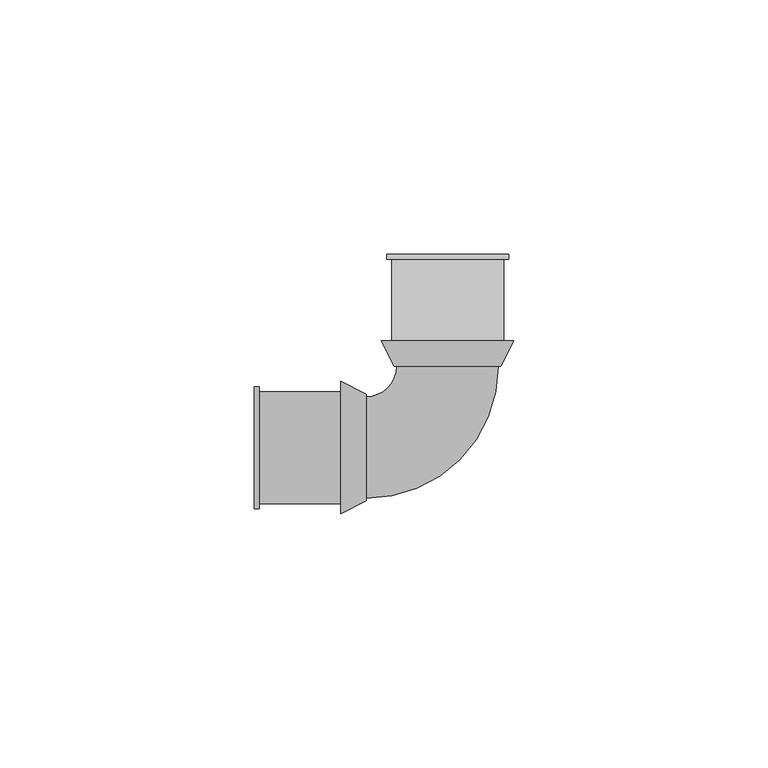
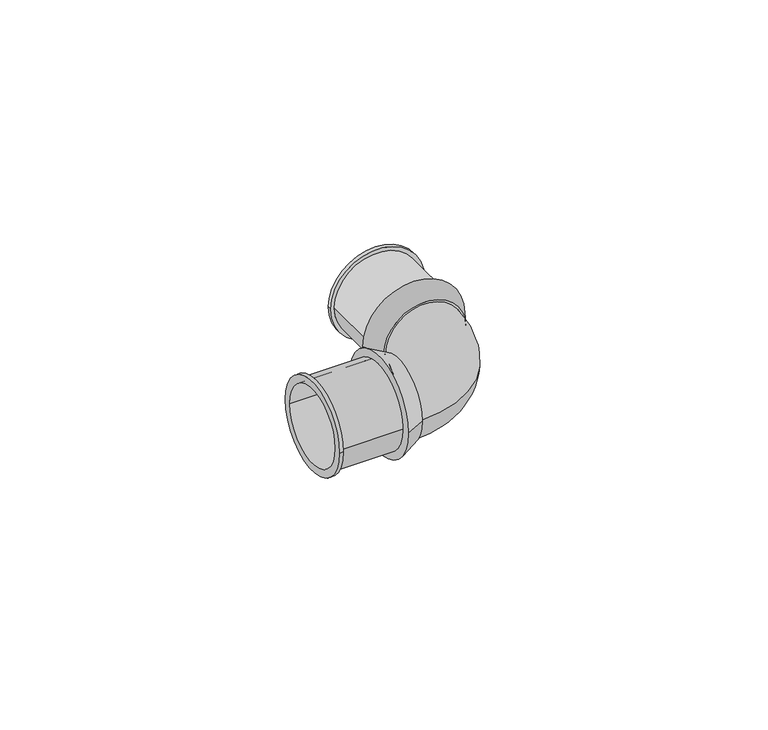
"""IFC4 building model written with IfcOpenShell, lengths in millimetres: pipe fitting geometry, SuperPipe_Elbow_SPressPlus : SuperPipe_Elbow_SPressPlus."""

from ifc_helpers import new_model, si_unit, point, frame, origin, place, context, project, spatial, polyline, circle_curve, ellipse_curve, trimmed, source, transform, mapped, element, save
from ifc_brep_helpers import plane_surface, cylinder_surface, revolved_surface, advanced_brep


def pipe_fitting_75c274c5(model_context):
    return source(origin(), model_context, "Body", "AdvancedBrep", [
        advanced_brep(
        [(-16.0, -10.5, 0.0), (-16.0, 10.5, 0.0), (-16.0, 10.0, 0.0), (-16.0, -10.0, 0.0), (-21.0, -13.0, 0.0), (-21.0, 13.0, 0.0), (-21.0, -10.0, 0.0), (-21.0, 10.0, 0.0)],
        [
            (0, 1, circle_curve(frame((-16.0, 0.0, 0.0), z_axis=(1.0, 0.0, 0.0), x_axis=(0.0, -1.0, 0.0)), 10.5)),
            (1, 0, circle_curve(frame((-16.0, 0.0, 0.0), z_axis=(1.0, 0.0, 0.0), x_axis=(0.0, 1.0, 0.0)), 10.5)),
            (2, 3, circle_curve(frame((-16.0, 0.0, 0.0), z_axis=(-1.0, 0.0, 0.0), x_axis=(0.0, 1.0, 0.0)), 10.0)),
            (3, 2, circle_curve(frame((-16.0, 0.0, 0.0), z_axis=(-1.0, 0.0, 0.0), x_axis=(0.0, 1.0, 0.0)), 10.0)),
            (4, 5, circle_curve(frame((-21.0, 0.0, 0.0), z_axis=(-1.0, 0.0, 0.0), x_axis=(0.0, 1.0, 0.0)), 13.0)),
            (5, 4, circle_curve(frame((-21.0, 0.0, 0.0), z_axis=(-1.0, 0.0, 0.0), x_axis=(0.0, -1.0, 0.0)), 13.0)),
            (6, 7, circle_curve(frame((-21.0, 0.0, 0.0), z_axis=(1.0, 0.0, 0.0), x_axis=(0.0, 1.0, 0.0)), 10.0)),
            (7, 6, circle_curve(frame((-21.0, 0.0, 0.0), z_axis=(1.0, 0.0, 0.0), x_axis=(0.0, 1.0, 0.0)), 10.0)),
            (0, 4),
            (5, 1),
            (2, 7),
            (6, 3),
        ],
        [
            plane_surface(frame((-16.0, 0.0, 0.0), z_axis=(1.0, 0.0, 0.0), x_axis=(0.0, 0.0, -1.0))),
            plane_surface(frame((-21.0, 0.0, 0.0), z_axis=(-1.0, 0.0, 0.0), x_axis=(0.0, 0.0, -1.0))),
            revolved_surface(polyline([(-16.0, -10.5, 0.0), (-21.0, -13.0, 0.0)]), (5.0, 0.0, 0.0), (-1.0, 0.0, 0.0)),
            revolved_surface(polyline([(-16.0, 10.5, 0.0), (-21.0, 13.0, 0.0)]), (5.0, 0.0, 0.0), (-1.0, 0.0, 0.0)),
            revolved_surface(polyline([(-16.0, 10.0, 0.0), (-21.0, 10.0, 0.0)]), (-21.0, 0.0, 0.0), (1.0, 0.0, 0.0)),
        ],
        [
            (0, [[1, 2], [3, 4]]),
            (1, [[5, 6], [7, 8]]),
            (2, [[-1, 9, -6, 10]]),
            (3, [[-2, -10, -5, -9]]),
            (4, [[11, -7, 12, -3]]),
            (4, [[-11, -4, -12, -8]]),
        ],
    ),
        advanced_brep(
        [(13.0, 21.0, 0.0), (-13.0, 21.0, 0.0), (10.0, 21.0, 0.0), (-10.0, 21.0, 0.0), (10.5, 16.0, 0.0), (-10.5, 16.0, 0.0), (-10.0, 16.0, 0.0), (10.0, 16.0, 0.0)],
        [
            (0, 1, circle_curve(frame((0.0, 21.0, 0.0), z_axis=(0.0, 1.0, 0.0), x_axis=(1.0, 0.0, 0.0)), 13.0)),
            (1, 0, circle_curve(frame((0.0, 21.0, 0.0), z_axis=(0.0, 1.0, 0.0), x_axis=(-1.0, 0.0, 0.0)), 13.0)),
            (2, 3, circle_curve(frame((0.0, 21.0, 0.0), z_axis=(0.0, -1.0, 0.0), x_axis=(-1.0, 0.0, 0.0)), 10.0)),
            (3, 2, circle_curve(frame((0.0, 21.0, 0.0), z_axis=(0.0, -1.0, 0.0), x_axis=(-1.0, 0.0, 0.0)), 10.0)),
            (4, 5, circle_curve(frame((0.0, 16.0, 0.0), z_axis=(0.0, -1.0, 0.0), x_axis=(-1.0, 0.0, 0.0)), 10.5)),
            (5, 4, circle_curve(frame((0.0, 16.0, 0.0), z_axis=(0.0, -1.0, 0.0), x_axis=(1.0, 0.0, 0.0)), 10.5)),
            (6, 7, circle_curve(frame((0.0, 16.0, 0.0), z_axis=(0.0, 1.0, 0.0), x_axis=(-1.0, 0.0, 0.0)), 10.0)),
            (7, 6, circle_curve(frame((0.0, 16.0, 0.0), z_axis=(0.0, 1.0, 0.0), x_axis=(-1.0, 0.0, 0.0)), 10.0)),
            (0, 4),
            (5, 1),
            (6, 3),
            (2, 7),
        ],
        [
            plane_surface(frame((0.0, 21.0, 0.0), z_axis=(0.0, 1.0, 0.0), x_axis=(0.0, 0.0, -1.0))),
            plane_surface(frame((0.0, 16.0, 0.0), z_axis=(0.0, -1.0, 0.0), x_axis=(0.0, 0.0, -1.0))),
            revolved_surface(polyline([(-10.5, 16.0, 0.0), (-13.0, 21.0, 0.0)]), (0.0, -5.0, 0.0), (0.0, 1.0, 0.0)),
            revolved_surface(polyline([(10.5, 16.0, 0.0), (13.0, 21.0, 0.0)]), (0.0, -5.0, 0.0), (0.0, 1.0, 0.0)),
            revolved_surface(polyline([(-10.0, 16.0, 0.0), (-10.0, 21.0, 0.0)]), (0.0, 16.0, 0.0), (0.0, -1.0, 0.0)),
        ],
        [
            (0, [[1, 2], [3, 4]]),
            (1, [[5, 6], [7, 8]]),
            (2, [[-1, 9, -6, 10]]),
            (3, [[-2, -10, -5, -9]]),
            (4, [[11, -3, 12, -7]]),
            (4, [[-11, -8, -12, -4]]),
        ],
    ),
        advanced_brep(
        [(-38.0, -12.0, 0.0), (-38.0, 12.0, 0.0), (-38.0, -10.0, 0.0), (-38.0, 10.0, 0.0), (-21.0, -11.0, 0.0), (-21.0, 11.0, 0.0), (-21.0, -10.0, 0.0), (-21.0, 10.0, 0.0), (-37.0, 11.0, 0.0), (-37.0, -11.0, 0.0), (-37.0, -12.0, 0.0), (-37.0, 12.0, 0.0)],
        [
            (0, 1, circle_curve(frame((-38.0, 0.0, 0.0), z_axis=(-1.0, 0.0, 0.0), x_axis=(0.0, 1.0, 0.0)), 12.0)),
            (1, 0, circle_curve(frame((-38.0, 0.0, 0.0), z_axis=(-1.0, 0.0, 0.0), x_axis=(0.0, 1.0, 0.0)), 12.0)),
            (2, 3, circle_curve(frame((-38.0, 0.0, 0.0), z_axis=(1.0, 0.0, 0.0), x_axis=(0.0, 1.0, 0.0)), 10.0)),
            (3, 2, circle_curve(frame((-38.0, 0.0, 0.0), z_axis=(1.0, 0.0, 0.0), x_axis=(0.0, 1.0, 0.0)), 10.0)),
            (4, 5, circle_curve(frame((-21.0, 0.0, 0.0), z_axis=(1.0, 0.0, 0.0), x_axis=(0.0, 1.0, 0.0)), 11.0)),
            (5, 4, circle_curve(frame((-21.0, 0.0, 0.0), z_axis=(1.0, 0.0, 0.0), x_axis=(0.0, 1.0, 0.0)), 11.0)),
            (6, 7, circle_curve(frame((-21.0, 0.0, 0.0), z_axis=(-1.0, 0.0, 0.0), x_axis=(0.0, 1.0, 0.0)), 10.0)),
            (7, 6, circle_curve(frame((-21.0, 0.0, 0.0), z_axis=(-1.0, 0.0, 0.0), x_axis=(0.0, 1.0, 0.0)), 10.0)),
            (2, 6),
            (7, 3),
            (5, 8),
            (8, 9, circle_curve(frame((-37.0, 0.0, 0.0), z_axis=(1.0, 0.0, 0.0), x_axis=(0.0, 1.0, 0.0)), 11.0)),
            (9, 4),
            (9, 8, circle_curve(frame((-37.0, 0.0, 0.0), z_axis=(1.0, 0.0, 0.0), x_axis=(0.0, 1.0, 0.0)), 11.0)),
            (10, 11, circle_curve(frame((-37.0, 0.0, 0.0), z_axis=(1.0, 0.0, 0.0), x_axis=(0.0, 1.0, 0.0)), 12.0)),
            (11, 10, circle_curve(frame((-37.0, 0.0, 0.0), z_axis=(1.0, 0.0, 0.0), x_axis=(0.0, 1.0, 0.0)), 12.0)),
            (0, 10),
            (11, 1),
        ],
        [
            plane_surface(frame((-38.0, 0.0, 0.0), z_axis=(-1.0, 0.0, 0.0), x_axis=(0.0, 0.0, 1.0))),
            plane_surface(frame((-21.0, 0.0, 0.0), z_axis=(1.0, 0.0, 0.0), x_axis=(0.0, 0.0, 1.0))),
            revolved_surface(polyline([(-21.0, 10.0, 0.0), (-38.0, 10.0, 0.0)]), (-38.0, 0.0, 0.0), (1.0, 0.0, 0.0)),
            cylinder_surface(frame((-38.0, 0.0, 0.0), z_axis=(-1.0, 0.0, 0.0), x_axis=(0.0, 1.0, 0.0)), 11.0),
            plane_surface(frame((-37.0, 0.0, 0.0), z_axis=(1.0, 0.0, 0.0), x_axis=(0.0, 0.0, 1.0))),
            cylinder_surface(frame((-38.0, 0.0, 0.0), z_axis=(-1.0, 0.0, 0.0), x_axis=(0.0, 1.0, 0.0)), 12.0),
        ],
        [
            (0, [[1, 2], [3, 4]]),
            (1, [[5, 6], [7, 8]]),
            (2, [[-3, 9, -8, 10]]),
            (2, [[-4, -10, -7, -9]]),
            (3, [[-6, 11, 12, 13]]),
            (3, [[-5, -13, 14, -11]]),
            (4, [[15, 16], [-12, -14]]),
            (5, [[-1, 17, -16, 18]]),
            (5, [[-2, -18, -15, -17]]),
        ],
    ),
        advanced_brep(
        [(11.0, 21.0, 0.0), (-11.0, 21.0, 0.0), (10.0, 21.0, 0.0), (-10.0, 21.0, 0.0), (12.0, 38.0, 0.0), (-12.0, 38.0, 0.0), (10.0, 38.0, 0.0), (-10.0, 38.0, 0.0), (11.0, 37.0, 0.0), (-11.0, 37.0, 0.0), (12.0, 37.0, 0.0), (-12.0, 37.0, 0.0)],
        [
            (0, 1, circle_curve(frame((0.0, 21.0, 0.0), z_axis=(0.0, -1.0, 0.0), x_axis=(-1.0, 0.0, 0.0)), 11.0)),
            (1, 0, circle_curve(frame((0.0, 21.0, 0.0), z_axis=(0.0, -1.0, 0.0), x_axis=(-1.0, 0.0, 0.0)), 11.0)),
            (2, 3, circle_curve(frame((0.0, 21.0, 0.0), z_axis=(0.0, 1.0, 0.0), x_axis=(-1.0, 0.0, 0.0)), 10.0)),
            (3, 2, circle_curve(frame((0.0, 21.0, 0.0), z_axis=(0.0, 1.0, 0.0), x_axis=(-1.0, 0.0, 0.0)), 10.0)),
            (4, 5, circle_curve(frame((0.0, 38.0, 0.0), z_axis=(0.0, 1.0, 0.0), x_axis=(-1.0, 0.0, 0.0)), 12.0)),
            (5, 4, circle_curve(frame((0.0, 38.0, 0.0), z_axis=(0.0, 1.0, 0.0), x_axis=(-1.0, 0.0, 0.0)), 12.0)),
            (6, 7, circle_curve(frame((0.0, 38.0, 0.0), z_axis=(0.0, -1.0, 0.0), x_axis=(-1.0, 0.0, 0.0)), 10.0)),
            (7, 6, circle_curve(frame((0.0, 38.0, 0.0), z_axis=(0.0, -1.0, 0.0), x_axis=(-1.0, 0.0, 0.0)), 10.0)),
            (0, 8),
            (8, 9, circle_curve(frame((0.0, 37.0, 0.0), z_axis=(0.0, -1.0, 0.0), x_axis=(-1.0, 0.0, 0.0)), 11.0)),
            (9, 1),
            (9, 8, circle_curve(frame((0.0, 37.0, 0.0), z_axis=(0.0, -1.0, 0.0), x_axis=(-1.0, 0.0, 0.0)), 11.0)),
            (2, 6),
            (7, 3),
            (10, 11, circle_curve(frame((0.0, 37.0, 0.0), z_axis=(0.0, -1.0, 0.0), x_axis=(-1.0, 0.0, 0.0)), 12.0)),
            (11, 10, circle_curve(frame((0.0, 37.0, 0.0), z_axis=(0.0, -1.0, 0.0), x_axis=(-1.0, 0.0, 0.0)), 12.0)),
            (11, 5),
            (4, 10),
        ],
        [
            plane_surface(frame((0.0, 21.0, 0.0), z_axis=(0.0, -1.0, 0.0), x_axis=(0.0, 0.0, 1.0))),
            plane_surface(frame((0.0, 38.0, 0.0), z_axis=(0.0, 1.0, 0.0), x_axis=(0.0, 0.0, 1.0))),
            cylinder_surface(frame((0.0, 21.0, 0.0), z_axis=(0.0, -1.0, 0.0), x_axis=(-1.0, 0.0, 0.0)), 11.0),
            revolved_surface(polyline([(-10.0, 38.0, 0.0), (-10.0, 21.0, 0.0)]), (0.0, 21.0, 0.0), (0.0, 1.0, 0.0)),
            plane_surface(frame((0.0, 37.0, 0.0), z_axis=(0.0, -1.0, 0.0), x_axis=(0.0, 0.0, 1.0))),
            cylinder_surface(frame((0.0, 37.0, 0.0), z_axis=(0.0, -1.0, 0.0), x_axis=(-1.0, 0.0, 0.0)), 12.0),
        ],
        [
            (0, [[1, 2], [3, 4]]),
            (1, [[5, 6], [7, 8]]),
            (2, [[-1, 9, 10, 11]]),
            (2, [[-2, -11, 12, -9]]),
            (3, [[-3, 13, -8, 14]]),
            (3, [[-4, -14, -7, -13]]),
            (4, [[15, 16], [-10, -12]]),
            (5, [[-16, 17, -5, 18]]),
            (5, [[-15, -18, -6, -17]]),
        ],
    ),
        advanced_brep(
        [(-16.0, -10.0, 0.0), (-16.0, 10.0, 0.0), (10.0, 16.0, 0.0), (-10.0, 16.0, 0.0)],
        [
            (0, 1, circle_curve(frame((-16.0, 0.0, 0.0), z_axis=(-1.0, 0.0, 0.0), x_axis=(0.0, 1.0, 0.0)), 10.0)),
            (1, 0, circle_curve(frame((-16.0, 0.0, 0.0), z_axis=(-1.0, 0.0, 0.0), x_axis=(0.0, 1.0, 0.0)), 10.0)),
            (2, 3, circle_curve(frame((0.0, 16.0, 0.0), z_axis=(0.0, 1.0, 0.0), x_axis=(-1.0, 0.0, 0.0)), 10.0)),
            (3, 2, circle_curve(frame((0.0, 16.0, 0.0), z_axis=(0.0, 1.0, 0.0), x_axis=(-1.0, 0.0, 0.0)), 10.0)),
            (3, 1, circle_curve(frame((-16.0, 16.0, 0.0), z_axis=(0.0, 0.0, -1.0), x_axis=(0.0, -1.0, 0.0)), 6.0)),
            (0, 2, circle_curve(frame((-16.0, 16.0, 0.0), z_axis=(0.0, 0.0, 1.0), x_axis=(0.0, -1.0, 0.0)), 26.0)),
        ],
        [
            plane_surface(frame((-16.0, 0.0, 0.0), z_axis=(-1.0, 0.0, 0.0), x_axis=(0.0, 0.0, 1.0))),
            plane_surface(frame((0.0, 16.0, 0.0), z_axis=(0.0, 1.0, 0.0), x_axis=(0.0, 0.0, 1.0))),
            revolved_surface(trimmed(ellipse_curve(frame((-16.0, 0.0, 0.0), z_axis=(-1.0, 0.0, 0.0), x_axis=(0.0, 1.0, 0.0)), 10.0, 10.0), [point((-16.0, -10.0, 0.0))], [point((-16.0, 10.0, 0.0))], True, "CARTESIAN"), (-16.0, 16.0, 0.0), (0.0, 0.0, 1.0)),
            revolved_surface(trimmed(ellipse_curve(frame((-16.0, 0.0, 0.0), z_axis=(-1.0, 0.0, 0.0), x_axis=(0.0, 1.0, 0.0)), 10.0, 10.0), [point((-16.0, 10.0, 0.0))], [point((-16.0, -10.0, 0.0))], True, "CARTESIAN"), (-16.0, 16.0, 0.0), (0.0, 0.0, 1.0)),
        ],
        [
            (0, [[1, 2]]),
            (1, [[3, 4]]),
            (2, [[5, -1, 6, -4]]),
            (3, [[-6, -2, -5, -3]]),
        ],
    ),
    ])


if __name__ == "__main__":
    model = new_model("IFC4")
    model_context = context("Model", 3, world=origin())
    ifc_project = project(units=[si_unit("LENGTHUNIT", "METRE", prefix="MILLI")], contexts=[model_context])
    site = spatial("IfcSite", under=ifc_project)
    building = spatial("IfcBuilding", under=site)
    placement = place(None, origin())
    pipe_fitting_shape = pipe_fitting_75c274c5(model_context)
    element("IfcPipeFitting", 1, ObjectType="SuperPipe_Elbow_SPressPlus : SuperPipe_Elbow_SPressPlus", at=placement, inside=building, context=model_context, shape_type="MappedRepresentation", body=[
        mapped(pipe_fitting_shape, transform((0.0, 0.0, 0.0), x_axis=(1.0, 0.0, 0.0), y_axis=(0.0, 1.0, 0.0), z_axis=(0.0, 0.0, 1.0))),
    ])
    save(model, "model.ifc")
